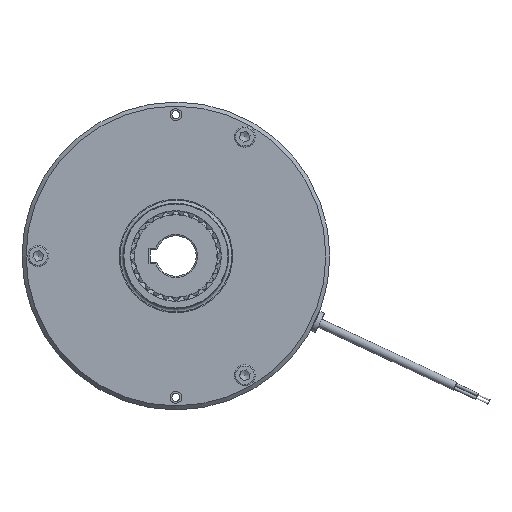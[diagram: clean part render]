
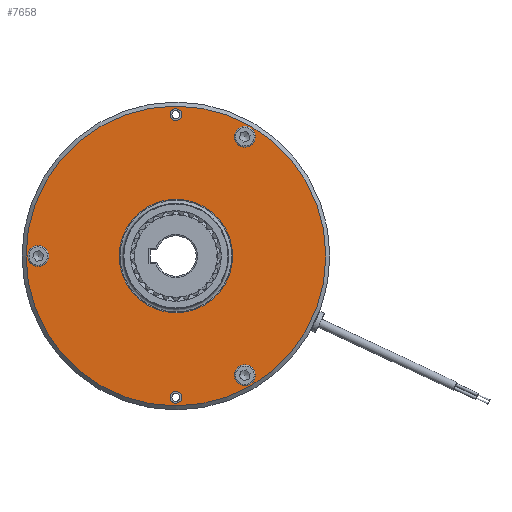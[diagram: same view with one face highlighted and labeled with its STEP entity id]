
A CAD part, left-side view. The second image highlights one B-rep face of the part: STEP entity #7658.
In plain terms, the highlighted planar face has unit normal (-1, 0, 0).
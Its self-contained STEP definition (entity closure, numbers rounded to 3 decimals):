
#617=FACE_BOUND('',#2024,.T.);
#618=FACE_BOUND('',#2025,.T.);
#619=FACE_BOUND('',#2026,.T.);
#620=FACE_BOUND('',#2027,.T.);
#621=FACE_BOUND('',#2028,.T.);
#622=FACE_BOUND('',#2029,.T.);
#1096=CIRCLE('',#8475,6.5);
#1097=CIRCLE('',#8476,6.5);
#1110=CIRCLE('',#8503,6.5);
#1111=CIRCLE('',#8504,6.5);
#1148=CIRCLE('',#8577,6.5);
#1149=CIRCLE('',#8578,6.5);
#1169=CIRCLE('',#8616,3.65);
#1170=CIRCLE('',#8617,3.65);
#1172=CIRCLE('',#8620,3.65);
#1173=CIRCLE('',#8621,3.65);
#1175=CIRCLE('',#8624,92.5);
#1176=CIRCLE('',#8626,35.);
#1571=FACE_OUTER_BOUND('',#2023,.T.);
#2023=EDGE_LOOP('',(#6759));
#2024=EDGE_LOOP('',(#6760,#6761));
#2025=EDGE_LOOP('',(#6762,#6763));
#2026=EDGE_LOOP('',(#6764,#6765));
#2027=EDGE_LOOP('',(#6766,#6767));
#2028=EDGE_LOOP('',(#6768,#6769));
#2029=EDGE_LOOP('',(#6770));
#3344=VERTEX_POINT('',#13743);
#3345=VERTEX_POINT('',#13744);
#3371=VERTEX_POINT('',#13835);
#3372=VERTEX_POINT('',#13836);
#3427=VERTEX_POINT('',#14122);
#3428=VERTEX_POINT('',#14123);
#3454=VERTEX_POINT('',#14224);
#3455=VERTEX_POINT('',#14225);
#3457=VERTEX_POINT('',#14232);
#3458=VERTEX_POINT('',#14233);
#3460=VERTEX_POINT('',#14240);
#3461=VERTEX_POINT('',#14244);
#4401=EDGE_CURVE('',#3344,#3345,#1096,.T.);
#4402=EDGE_CURVE('',#3345,#3344,#1097,.T.);
#4438=EDGE_CURVE('',#3371,#3372,#1110,.T.);
#4439=EDGE_CURVE('',#3372,#3371,#1111,.T.);
#4516=EDGE_CURVE('',#3427,#3428,#1148,.T.);
#4517=EDGE_CURVE('',#3428,#3427,#1149,.T.);
#4559=EDGE_CURVE('',#3454,#3455,#1169,.T.);
#4560=EDGE_CURVE('',#3455,#3454,#1170,.T.);
#4563=EDGE_CURVE('',#3457,#3458,#1172,.T.);
#4564=EDGE_CURVE('',#3458,#3457,#1173,.T.);
#4568=EDGE_CURVE('',#3460,#3460,#1175,.T.);
#4569=EDGE_CURVE('',#3461,#3461,#1176,.T.);
#6759=ORIENTED_EDGE('',*,*,#4568,.F.);
#6760=ORIENTED_EDGE('',*,*,#4401,.T.);
#6761=ORIENTED_EDGE('',*,*,#4402,.T.);
#6762=ORIENTED_EDGE('',*,*,#4438,.T.);
#6763=ORIENTED_EDGE('',*,*,#4439,.T.);
#6764=ORIENTED_EDGE('',*,*,#4516,.T.);
#6765=ORIENTED_EDGE('',*,*,#4517,.T.);
#6766=ORIENTED_EDGE('',*,*,#4559,.T.);
#6767=ORIENTED_EDGE('',*,*,#4560,.T.);
#6768=ORIENTED_EDGE('',*,*,#4563,.T.);
#6769=ORIENTED_EDGE('',*,*,#4564,.T.);
#6770=ORIENTED_EDGE('',*,*,#4569,.T.);
#6863=PLANE('',#8625);
#7658=ADVANCED_FACE('',(#1571,#617,#618,#619,#620,#621,#622),#6863,.T.);
#8475=AXIS2_PLACEMENT_3D('',#13745,#10472,#10473);
#8476=AXIS2_PLACEMENT_3D('',#13746,#10474,#10475);
#8503=AXIS2_PLACEMENT_3D('',#13837,#10544,#10545);
#8504=AXIS2_PLACEMENT_3D('',#13838,#10546,#10547);
#8577=AXIS2_PLACEMENT_3D('',#14124,#10719,#10720);
#8578=AXIS2_PLACEMENT_3D('',#14125,#10721,#10722);
#8616=AXIS2_PLACEMENT_3D('',#14226,#10812,#10813);
#8617=AXIS2_PLACEMENT_3D('',#14227,#10814,#10815);
#8620=AXIS2_PLACEMENT_3D('',#14234,#10821,#10822);
#8621=AXIS2_PLACEMENT_3D('',#14235,#10823,#10824);
#8624=AXIS2_PLACEMENT_3D('',#14242,#10831,#10832);
#8625=AXIS2_PLACEMENT_3D('',#14243,#10833,#10834);
#8626=AXIS2_PLACEMENT_3D('',#14245,#10835,#10836);
#10472=DIRECTION('center_axis',(1.,0.,0.));
#10473=DIRECTION('ref_axis',(0.,-0.705,0.709));
#10474=DIRECTION('center_axis',(1.,0.,0.));
#10475=DIRECTION('ref_axis',(0.,-0.705,0.709));
#10544=DIRECTION('center_axis',(1.,0.,0.));
#10545=DIRECTION('ref_axis',(0.,-0.262,-0.965));
#10546=DIRECTION('center_axis',(1.,0.,0.));
#10547=DIRECTION('ref_axis',(0.,-0.262,-0.965));
#10719=DIRECTION('center_axis',(1.,0.,0.));
#10720=DIRECTION('ref_axis',(0.,0.967,0.256));
#10721=DIRECTION('center_axis',(1.,0.,0.));
#10722=DIRECTION('ref_axis',(0.,0.967,0.256));
#10812=DIRECTION('center_axis',(1.,0.,0.));
#10813=DIRECTION('ref_axis',(0.,0.,1.));
#10814=DIRECTION('center_axis',(1.,0.,0.));
#10815=DIRECTION('ref_axis',(0.,0.,1.));
#10821=DIRECTION('center_axis',(1.,0.,0.));
#10822=DIRECTION('ref_axis',(0.,0.,1.));
#10823=DIRECTION('center_axis',(1.,0.,0.));
#10824=DIRECTION('ref_axis',(0.,0.,1.));
#10831=DIRECTION('center_axis',(1.,0.,0.));
#10832=DIRECTION('ref_axis',(0.,-1.,0.));
#10833=DIRECTION('center_axis',(-1.,0.,0.));
#10834=DIRECTION('ref_axis',(0.,0.,1.));
#10835=DIRECTION('center_axis',(1.,0.,0.));
#10836=DIRECTION('ref_axis',(0.,0.,1.));
#13743=CARTESIAN_POINT('',(-51.7,-47.082,78.223));
#13744=CARTESIAN_POINT('',(-51.7,-37.918,69.001));
#13745=CARTESIAN_POINT('Origin',(-51.7,-42.5,73.612));
#13746=CARTESIAN_POINT('Origin',(-51.7,-42.5,73.612));
#13835=CARTESIAN_POINT('',(-51.7,-44.202,-79.885));
#13836=CARTESIAN_POINT('',(-51.7,-40.798,-67.339));
#13837=CARTESIAN_POINT('Origin',(-51.7,-42.5,-73.612));
#13838=CARTESIAN_POINT('Origin',(-51.7,-42.5,-73.612));
#14122=CARTESIAN_POINT('',(-51.7,91.284,1.662));
#14123=CARTESIAN_POINT('',(-51.7,78.716,-1.662));
#14124=CARTESIAN_POINT('Origin',(-51.7,85.,0.));
#14125=CARTESIAN_POINT('Origin',(-51.7,85.,0.));
#14224=CARTESIAN_POINT('',(-51.7,0.,-83.6));
#14225=CARTESIAN_POINT('',(-51.7,0.,-90.9));
#14226=CARTESIAN_POINT('Origin',(-51.7,0.,-87.25));
#14227=CARTESIAN_POINT('Origin',(-51.7,0.,-87.25));
#14232=CARTESIAN_POINT('',(-51.7,0.,90.9));
#14233=CARTESIAN_POINT('',(-51.7,0.,83.6));
#14234=CARTESIAN_POINT('Origin',(-51.7,0.,87.25));
#14235=CARTESIAN_POINT('Origin',(-51.7,0.,87.25));
#14240=CARTESIAN_POINT('',(-51.7,92.5,0.));
#14242=CARTESIAN_POINT('Origin',(-51.7,0.,0.));
#14243=CARTESIAN_POINT('Origin',(-51.7,47.5,0.));
#14244=CARTESIAN_POINT('',(-51.7,0.,-35.));
#14245=CARTESIAN_POINT('Origin',(-51.7,0.,0.));
